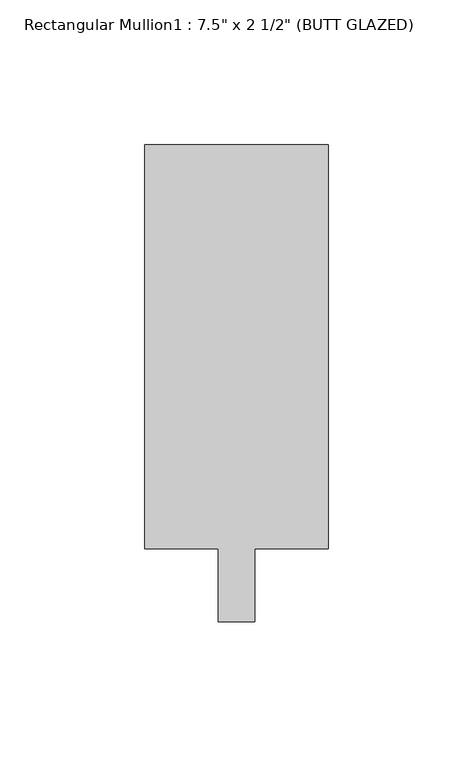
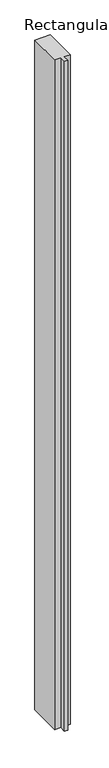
"""IFC4 building model written with IfcOpenShell, lengths in millimetres: member geometry."""

from ifc_helpers import new_model, si_unit, frame, origin, place, context, project, spatial, polyline, outline, extrude, source, transform, mapped, element, save


def member_e39f6412(model_context):
    return source(origin(), model_context, "Body", "SweptSolid", [
        extrude(outline(polyline([(31.75, 165.1), (31.75, 25.4), (6.35, 25.4), (6.35, 0.0), (-6.35, 0.0), (-6.35, 25.4), (-31.75, 25.4), (-31.75, 165.1), (31.75, 165.1)])), frame((0.0, 0.0, -2895.6), z_axis=(0.0, 0.0, 1.0), x_axis=(1.0, 0.0, 0.0)), (0.0, 0.0, 1.0), 2895.6),
    ])


if __name__ == "__main__":
    model = new_model("IFC4")
    model_context = context("Model", 3, world=origin())
    ifc_project = project(units=[si_unit("LENGTHUNIT", "METRE", prefix="MILLI")], contexts=[model_context])
    site = spatial("IfcSite", under=ifc_project)
    building = spatial("IfcBuilding", under=site)
    placement = place(None, origin())
    member_shape = member_e39f6412(model_context)
    element("IfcMember", 1, ObjectType="Rectangular Mullion1 : 7.5\" x 2 1/2\" (BUTT GLAZED)", at=placement, inside=building, context=model_context, shape_type="MappedRepresentation", body=[
        mapped(member_shape, transform((0.0, 0.0, 0.0), x_axis=(1.0, 0.0, 0.0), y_axis=(0.0, 1.0, 0.0), z_axis=(0.0, 0.0, 1.0))),
    ])
    save(model, "model.ifc")
